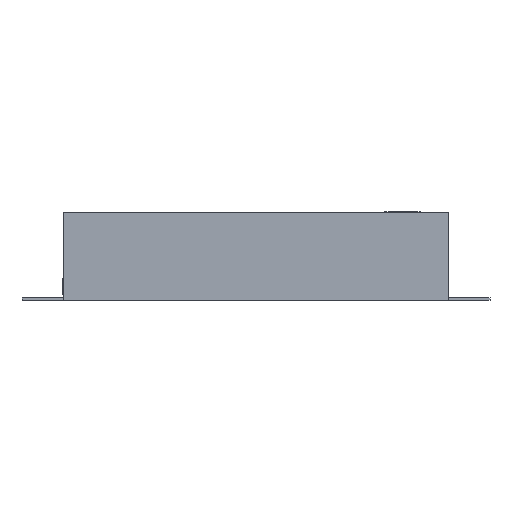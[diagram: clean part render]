
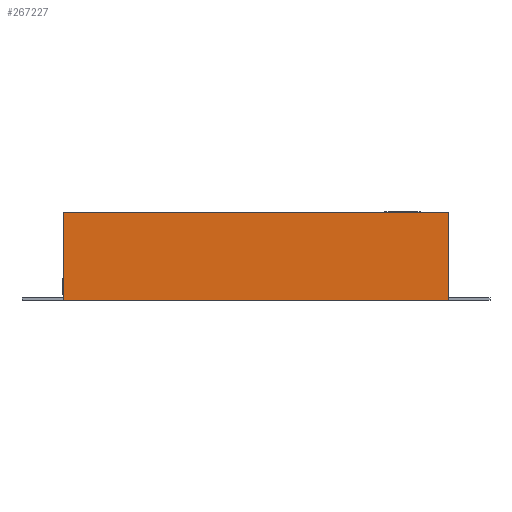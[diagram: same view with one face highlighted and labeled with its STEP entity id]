
A CAD part, front view. The second image highlights one B-rep face of the part: STEP entity #267227.
In plain terms, the highlighted planar face has unit normal (0, -1, 0).
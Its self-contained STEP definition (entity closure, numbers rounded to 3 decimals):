
#188170 = PLANE('',#188171);
#188171 = AXIS2_PLACEMENT_3D('',#188172,#188173,#188174);
#188172 = CARTESIAN_POINT('',(0.,0.,0.));
#188173 = DIRECTION('',(0.,0.,1.));
#188174 = DIRECTION('',(1.,0.,0.));
#220549 = PLANE('',#220550);
#220550 = AXIS2_PLACEMENT_3D('',#220551,#220552,#220553);
#220551 = CARTESIAN_POINT('',(0.,0.,30.9));
#220552 = DIRECTION('',(0.,0.,1.));
#220553 = DIRECTION('',(1.,0.,0.));
#227101 = PLANE('',#227102);
#227102 = AXIS2_PLACEMENT_3D('',#227103,#227104,#227105);
#227103 = CARTESIAN_POINT('',(14.5,27.45,15.515));
#227104 = DIRECTION('',(-1.,0.,0.));
#227105 = DIRECTION('',(0.,0.,-1.));
#227198 = VERTEX_POINT('',#227199);
#227199 = CARTESIAN_POINT('',(14.5,0.,0.));
#227220 = EDGE_CURVE('',#227198,#227221,#227223,.T.);
#227221 = VERTEX_POINT('',#227222);
#227222 = CARTESIAN_POINT('',(149.5,0.,0.));
#227223 = SURFACE_CURVE('',#227224,(#227228,#227235),.PCURVE_S1.);
#227224 = LINE('',#227225,#227226);
#227225 = CARTESIAN_POINT('',(0.,0.,0.));
#227226 = VECTOR('',#227227,1.);
#227227 = DIRECTION('',(1.,0.,0.));
#227228 = PCURVE('',#188170,#227229);
#227229 = DEFINITIONAL_REPRESENTATION('',(#227230),#227234);
#227230 = LINE('',#227231,#227232);
#227231 = CARTESIAN_POINT('',(0.,0.));
#227232 = VECTOR('',#227233,1.);
#227233 = DIRECTION('',(1.,0.));
#227234 = ( GEOMETRIC_REPRESENTATION_CONTEXT(2) 
PARAMETRIC_REPRESENTATION_CONTEXT() REPRESENTATION_CONTEXT('2D SPACE',''
  ) );
#227235 = PCURVE('',#227236,#227241);
#227236 = PLANE('',#227237);
#227237 = AXIS2_PLACEMENT_3D('',#227238,#227239,#227240);
#227238 = CARTESIAN_POINT('',(0.,0.,0.));
#227239 = DIRECTION('',(0.,1.,0.));
#227240 = DIRECTION('',(0.,0.,1.));
#227241 = DEFINITIONAL_REPRESENTATION('',(#227242),#227246);
#227242 = LINE('',#227243,#227244);
#227243 = CARTESIAN_POINT('',(0.,0.));
#227244 = VECTOR('',#227245,1.);
#227245 = DIRECTION('',(0.,1.));
#227246 = ( GEOMETRIC_REPRESENTATION_CONTEXT(2) 
PARAMETRIC_REPRESENTATION_CONTEXT() REPRESENTATION_CONTEXT('2D SPACE',''
  ) );
#227264 = PLANE('',#227265);
#227265 = AXIS2_PLACEMENT_3D('',#227266,#227267,#227268);
#227266 = CARTESIAN_POINT('',(149.5,27.45,15.515));
#227267 = DIRECTION('',(1.,0.,0.));
#227268 = DIRECTION('',(0.,0.,1.));
#262026 = VERTEX_POINT('',#262027);
#262027 = CARTESIAN_POINT('',(14.5,0.,30.9));
#262048 = EDGE_CURVE('',#262026,#262049,#262051,.T.);
#262049 = VERTEX_POINT('',#262050);
#262050 = CARTESIAN_POINT('',(149.5,0.,30.9));
#262051 = SURFACE_CURVE('',#262052,(#262056,#262063),.PCURVE_S1.);
#262052 = LINE('',#262053,#262054);
#262053 = CARTESIAN_POINT('',(0.,0.,30.9));
#262054 = VECTOR('',#262055,1.);
#262055 = DIRECTION('',(1.,0.,0.));
#262056 = PCURVE('',#220549,#262057);
#262057 = DEFINITIONAL_REPRESENTATION('',(#262058),#262062);
#262058 = LINE('',#262059,#262060);
#262059 = CARTESIAN_POINT('',(0.,0.));
#262060 = VECTOR('',#262061,1.);
#262061 = DIRECTION('',(1.,0.));
#262062 = ( GEOMETRIC_REPRESENTATION_CONTEXT(2) 
PARAMETRIC_REPRESENTATION_CONTEXT() REPRESENTATION_CONTEXT('2D SPACE',''
  ) );
#262063 = PCURVE('',#227236,#262064);
#262064 = DEFINITIONAL_REPRESENTATION('',(#262065),#262069);
#262065 = LINE('',#262066,#262067);
#262066 = CARTESIAN_POINT('',(30.9,0.));
#262067 = VECTOR('',#262068,1.);
#262068 = DIRECTION('',(0.,1.));
#262069 = ( GEOMETRIC_REPRESENTATION_CONTEXT(2) 
PARAMETRIC_REPRESENTATION_CONTEXT() REPRESENTATION_CONTEXT('2D SPACE',''
  ) );
#266511 = EDGE_CURVE('',#227198,#262026,#266512,.T.);
#266512 = SURFACE_CURVE('',#266513,(#266517,#266524),.PCURVE_S1.);
#266513 = LINE('',#266514,#266515);
#266514 = CARTESIAN_POINT('',(14.5,0.,1.));
#266515 = VECTOR('',#266516,1.);
#266516 = DIRECTION('',(0.,0.,1.));
#266517 = PCURVE('',#227101,#266518);
#266518 = DEFINITIONAL_REPRESENTATION('',(#266519),#266523);
#266519 = LINE('',#266520,#266521);
#266520 = CARTESIAN_POINT('',(14.515,27.45));
#266521 = VECTOR('',#266522,1.);
#266522 = DIRECTION('',(-1.,0.));
#266523 = ( GEOMETRIC_REPRESENTATION_CONTEXT(2) 
PARAMETRIC_REPRESENTATION_CONTEXT() REPRESENTATION_CONTEXT('2D SPACE',''
  ) );
#266524 = PCURVE('',#227236,#266525);
#266525 = DEFINITIONAL_REPRESENTATION('',(#266526),#266530);
#266526 = LINE('',#266527,#266528);
#266527 = CARTESIAN_POINT('',(1.,14.5));
#266528 = VECTOR('',#266529,1.);
#266529 = DIRECTION('',(1.,0.));
#266530 = ( GEOMETRIC_REPRESENTATION_CONTEXT(2) 
PARAMETRIC_REPRESENTATION_CONTEXT() REPRESENTATION_CONTEXT('2D SPACE',''
  ) );
#266949 = EDGE_CURVE('',#227221,#262049,#266950,.T.);
#266950 = SURFACE_CURVE('',#266951,(#266955,#266962),.PCURVE_S1.);
#266951 = LINE('',#266952,#266953);
#266952 = CARTESIAN_POINT('',(149.5,0.,0.));
#266953 = VECTOR('',#266954,1.);
#266954 = DIRECTION('',(0.,0.,1.));
#266955 = PCURVE('',#227264,#266956);
#266956 = DEFINITIONAL_REPRESENTATION('',(#266957),#266961);
#266957 = LINE('',#266958,#266959);
#266958 = CARTESIAN_POINT('',(-15.515,27.45));
#266959 = VECTOR('',#266960,1.);
#266960 = DIRECTION('',(1.,0.));
#266961 = ( GEOMETRIC_REPRESENTATION_CONTEXT(2) 
PARAMETRIC_REPRESENTATION_CONTEXT() REPRESENTATION_CONTEXT('2D SPACE',''
  ) );
#266962 = PCURVE('',#227236,#266963);
#266963 = DEFINITIONAL_REPRESENTATION('',(#266964),#266968);
#266964 = LINE('',#266965,#266966);
#266965 = CARTESIAN_POINT('',(0.,149.5));
#266966 = VECTOR('',#266967,1.);
#266967 = DIRECTION('',(1.,0.));
#266968 = ( GEOMETRIC_REPRESENTATION_CONTEXT(2) 
PARAMETRIC_REPRESENTATION_CONTEXT() REPRESENTATION_CONTEXT('2D SPACE',''
  ) );
#267227 = ADVANCED_FACE('',(#267228),#227236,.F.);
#267228 = FACE_BOUND('',#267229,.F.);
#267229 = EDGE_LOOP('',(#267230,#267231,#267232,#267233));
#267230 = ORIENTED_EDGE('',*,*,#266949,.F.);
#267231 = ORIENTED_EDGE('',*,*,#227220,.F.);
#267232 = ORIENTED_EDGE('',*,*,#266511,.T.);
#267233 = ORIENTED_EDGE('',*,*,#262048,.T.);
